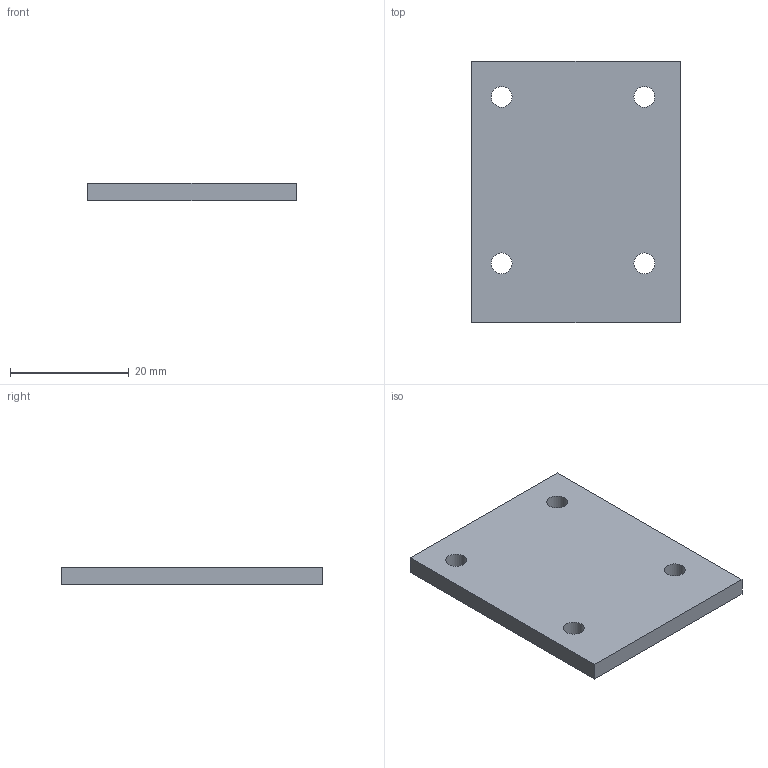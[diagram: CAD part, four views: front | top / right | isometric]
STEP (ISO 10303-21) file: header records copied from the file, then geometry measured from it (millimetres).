
FILE_DESCRIPTION(('Open CASCADE Model'),'2;1');
FILE_NAME('Open CASCADE Shape Model','2026-10-15T18:22:09',('Author'),( 'Open CASCADE'),'Open CASCADE STEP processor 7.9','Open CASCADE 7.9' ,'Unknown');
FILE_SCHEMA(('AUTOMOTIVE_DESIGN { 1 0 10303 214 1 1 1 1 }'));
Length unit declared in the file: millimetre
Products named in the file (1): Open CASCADE STEP translator 7.9 19
Bounding box: 35 x 44 x 3 mm (x, y, z)
Volume: 4504.5 mm3; surface area: 3609 mm2
Topology: 1 solids, 1 shells, 10 faces, 24 edges, 16 vertices
Faces by surface type: plane 6, cylinder 4
Full cylindrical faces by diameter (mm): 3.5 x4
Entity records: 634 total; most frequent: DIRECTION 102, CARTESIAN_POINT 99, LINE 56, VECTOR 56, ORIENTED_EDGE 48, PCURVE 48, DEFINITIONAL_REPRESENTATION 48, EDGE_CURVE 24
